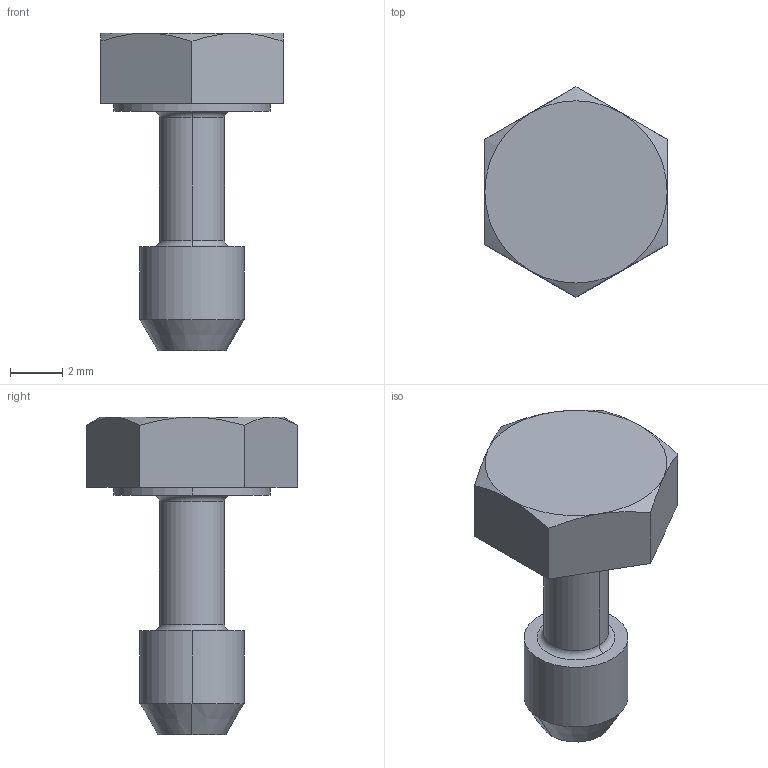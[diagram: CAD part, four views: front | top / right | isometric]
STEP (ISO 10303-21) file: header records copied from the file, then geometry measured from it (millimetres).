
FILE_DESCRIPTION(('CATIA V5 STEP Exchange','CAx-IF Rec.Pracs.--- Model Styling and Organization---1.4--- 2014-01-23','CAx-IF Rec.Pracs.---3D Tessellated Data Validation Properties---0.5---2014-09-14'),'2;1');
FILE_NAME('D:\CTA\NECTARCAM PROD\CTA-01 - Camera Module\CTA-0103 - Backplanes\CTA-010303 - Mechanical Components\CTA-010303-004 - Backplane Captive Screw.stp','2026-03-13T09:47:50+00:00',('none'),('none'),'CATIA Version 5-6 Release 2018 SP5 HF4','CATIA V5 STEP AP242','none');
FILE_SCHEMA(('AP242_MANAGED_MODEL_BASED_3D_ENGINEERING_MIM_LF {1 0 10303 442 1 1 4}'));
Length unit declared in the file: millimetre
Products named in the file (1): CTA-010303-004
Bounding box: 7 x 8.08 x 12.2 mm (x, y, z)
Volume: 194.1 mm3; surface area: 250.9 mm2
Topology: 1 solids, 1 shells, 29 faces, 60 edges, 36 vertices
Faces by surface type: plane 11, cone 8, cylinder 6, torus 4
Entity records: 791 total; most frequent: CARTESIAN_POINT 214, ORIENTED_EDGE 120, DIRECTION 90, EDGE_CURVE 60, AXIS2_PLACEMENT_3D 50, VERTEX_POINT 36, EDGE_LOOP 32, ADVANCED_FACE 29
